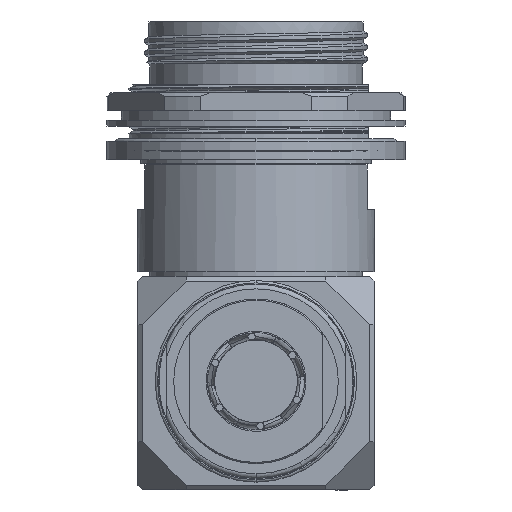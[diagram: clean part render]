
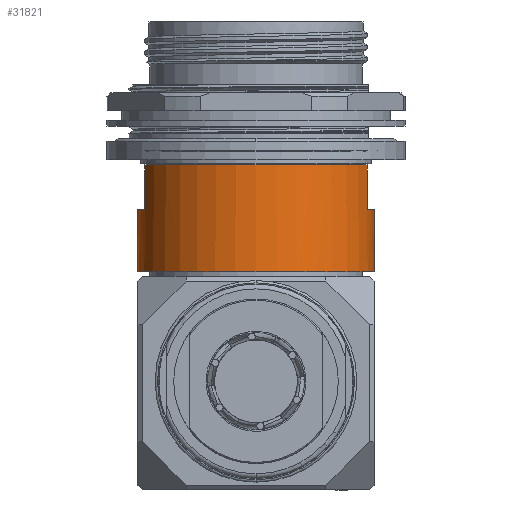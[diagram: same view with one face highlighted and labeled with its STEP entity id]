
A CAD part, front view. The second image highlights one B-rep face of the part: STEP entity #31821.
In plain terms, the highlighted cylindrical face has radius 25.209 mm (diameter 50.419 mm), a partial arc.
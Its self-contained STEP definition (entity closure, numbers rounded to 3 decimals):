
#2650 = EDGE_CURVE ( 'NONE', #117743, #97584, #18613, .T. ) ;
#2884 = CARTESIAN_POINT ( 'NONE',  ( -25.209, 0., -53.01 ) ) ;
#3137 = DIRECTION ( 'NONE',  ( 0., 0., -1. ) ) ;
#4112 = CARTESIAN_POINT ( 'NONE',  ( 0., 0., -39.853 ) ) ;
#7824 = VECTOR ( 'NONE', #111820, 1000. ) ;
#7905 = CARTESIAN_POINT ( 'NONE',  ( -23.558, -8.973, -30.328 ) ) ;
#9720 = ORIENTED_EDGE ( 'NONE', *, *, #2650, .F. ) ;
#13823 = DIRECTION ( 'NONE',  ( 0., 0., -1. ) ) ;
#14727 = VERTEX_POINT ( 'NONE', #30704 ) ;
#14785 = CARTESIAN_POINT ( 'NONE',  ( 0., 0., -39.853 ) ) ;
#16992 = VERTEX_POINT ( 'NONE', #78238 ) ;
#18613 = LINE ( 'NONE', #58144, #73482 ) ;
#21357 = VERTEX_POINT ( 'NONE', #2884 ) ;
#22945 = DIRECTION ( 'NONE',  ( 1., 0., 0. ) ) ;
#23586 = DIRECTION ( 'NONE',  ( 0., 0., 1. ) ) ;
#24181 = CYLINDRICAL_SURFACE ( 'NONE', #31927, 25.21 ) ;
#25488 = EDGE_CURVE ( 'NONE', #88093, #21357, #76006, .T. ) ;
#27370 = LINE ( 'NONE', #7905, #71362 ) ;
#30704 = CARTESIAN_POINT ( 'NONE',  ( -23.559, -8.973, -39.853 ) ) ;
#31448 = LINE ( 'NONE', #63179, #7824 ) ;
#31821 = ADVANCED_FACE ( 'NONE', ( #83821 ), #24181, .T. ) ;
#31927 = AXIS2_PLACEMENT_3D ( 'NONE', #111709, #53339, #52702 ) ;
#32936 = CARTESIAN_POINT ( 'NONE',  ( 23.558, -8.973, -30.328 ) ) ;
#34979 = CARTESIAN_POINT ( 'NONE',  ( -23.559, -8.973, -30.328 ) ) ;
#35303 = DIRECTION ( 'NONE',  ( 1., 0., 0. ) ) ;
#38700 = AXIS2_PLACEMENT_3D ( 'NONE', #124115, #53452, #35303 ) ;
#40042 = AXIS2_PLACEMENT_3D ( 'NONE', #4112, #23586, #22945 ) ;
#42630 = EDGE_CURVE ( 'NONE', #75652, #21357, #31448, .T. ) ;
#43954 = DIRECTION ( 'NONE',  ( 1., 0., 0. ) ) ;
#48081 = DIRECTION ( 'NONE',  ( 0., 0., 1. ) ) ;
#48871 = CIRCLE ( 'NONE', #61233, 25.21 ) ;
#51537 = CARTESIAN_POINT ( 'NONE',  ( 25.209, 0., -53.01 ) ) ;
#52702 = DIRECTION ( 'NONE',  ( 1., 0., 0. ) ) ;
#53339 = DIRECTION ( 'NONE',  ( 0., 0., -1. ) ) ;
#53452 = DIRECTION ( 'NONE',  ( 0., 0., -1. ) ) ;
#53698 = EDGE_CURVE ( 'NONE', #75652, #14727, #114575, .T. ) ;
#57403 = ORIENTED_EDGE ( 'NONE', *, *, #119062, .F. ) ;
#58144 = CARTESIAN_POINT ( 'NONE',  ( 23.558, -8.973, -30.328 ) ) ;
#58954 = VECTOR ( 'NONE', #3137, 1000. ) ;
#60436 = ORIENTED_EDGE ( 'NONE', *, *, #64314, .F. ) ;
#60483 = EDGE_CURVE ( 'NONE', #117743, #70255, #112839, .T. ) ;
#61030 = ORIENTED_EDGE ( 'NONE', *, *, #60483, .T. ) ;
#61233 = AXIS2_PLACEMENT_3D ( 'NONE', #14785, #101675, #43954 ) ;
#62138 = CARTESIAN_POINT ( 'NONE',  ( 25.209, 0., -30.328 ) ) ;
#62172 = EDGE_CURVE ( 'NONE', #14727, #70255, #27370, .T. ) ;
#63179 = CARTESIAN_POINT ( 'NONE',  ( -25.21, 0., -30.328 ) ) ;
#64046 = ORIENTED_EDGE ( 'NONE', *, *, #53698, .F. ) ;
#64314 = EDGE_CURVE ( 'NONE', #16992, #88093, #102330, .T. ) ;
#66065 = EDGE_LOOP ( 'NONE', ( #64046, #76072, #116755, #60436, #57403, #9720, #61030, #110371 ) ) ;
#70255 = VERTEX_POINT ( 'NONE', #34979 ) ;
#71362 = VECTOR ( 'NONE', #48081, 1000. ) ;
#73482 = VECTOR ( 'NONE', #13823, 1000. ) ;
#75652 = VERTEX_POINT ( 'NONE', #118683 ) ;
#76006 = CIRCLE ( 'NONE', #38700, 25.209 ) ;
#76072 = ORIENTED_EDGE ( 'NONE', *, *, #42630, .T. ) ;
#78238 = CARTESIAN_POINT ( 'NONE',  ( 25.21, 0., -39.853 ) ) ;
#83821 = FACE_OUTER_BOUND ( 'NONE', #66065, .T. ) ;
#85938 = AXIS2_PLACEMENT_3D ( 'NONE', #122129, #114333, #122764 ) ;
#88093 = VERTEX_POINT ( 'NONE', #51537 ) ;
#97584 = VERTEX_POINT ( 'NONE', #120437 ) ;
#101675 = DIRECTION ( 'NONE',  ( 0., 0., 1. ) ) ;
#102330 = LINE ( 'NONE', #62138, #58954 ) ;
#110371 = ORIENTED_EDGE ( 'NONE', *, *, #62172, .F. ) ;
#111709 = CARTESIAN_POINT ( 'NONE',  ( 0., 0., -30.328 ) ) ;
#111820 = DIRECTION ( 'NONE',  ( 0., 0., -1. ) ) ;
#112839 = CIRCLE ( 'NONE', #85938, 25.21 ) ;
#114333 = DIRECTION ( 'NONE',  ( 0., 0., -1. ) ) ;
#114575 = CIRCLE ( 'NONE', #40042, 25.21 ) ;
#116755 = ORIENTED_EDGE ( 'NONE', *, *, #25488, .F. ) ;
#117743 = VERTEX_POINT ( 'NONE', #32936 ) ;
#118683 = CARTESIAN_POINT ( 'NONE',  ( -25.21, 0., -39.853 ) ) ;
#119062 = EDGE_CURVE ( 'NONE', #97584, #16992, #48871, .T. ) ;
#120437 = CARTESIAN_POINT ( 'NONE',  ( 23.558, -8.973, -39.853 ) ) ;
#122129 = CARTESIAN_POINT ( 'NONE',  ( 0., 0., -30.328 ) ) ;
#122764 = DIRECTION ( 'NONE',  ( 1., 0., 0. ) ) ;
#124115 = CARTESIAN_POINT ( 'NONE',  ( 0., 0., -53.01 ) ) ;
